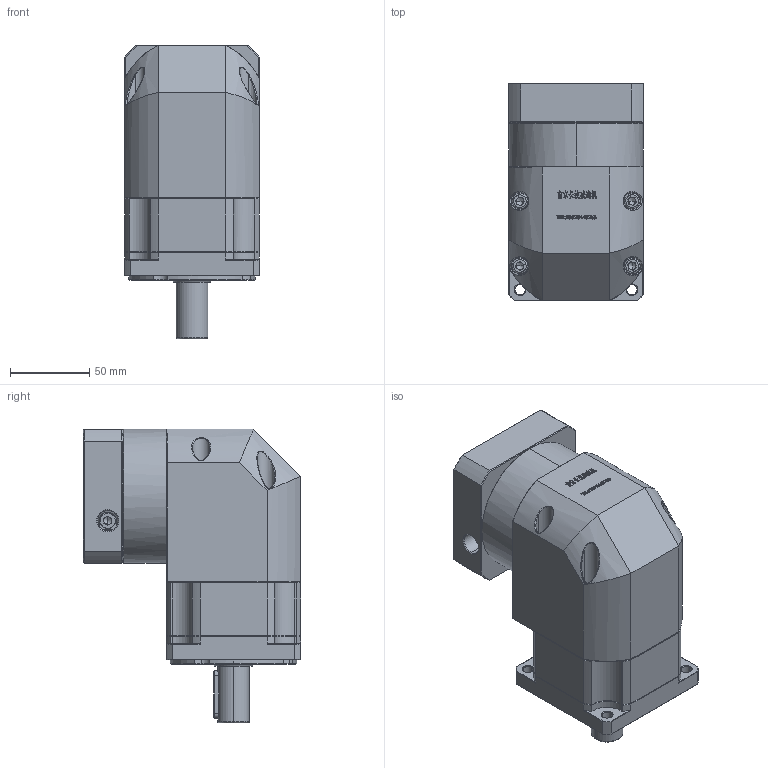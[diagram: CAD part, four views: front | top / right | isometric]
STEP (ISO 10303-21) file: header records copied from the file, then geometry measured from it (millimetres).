
FILE_DESCRIPTION (( 'STEP AP214' ), '1' );
FILE_NAME ('ZBR90-D20-L1-12.7-73-69.5X69.5-M6.step', '2022-05-07T15:12:42', ( '' ), ( 'Microsoft' ), 'SwSTEP 2.0', 'SolidWorks 2016', '' );
FILE_SCHEMA (( 'AUTOMOTIVE_DESIGN' ));
Length unit declared in the file: millimetre
Products named in the file (1): ZBR90-D20-L1-12.7-73-69.5X69.5-M6
Bounding box: 85 x 137.6 x 186 mm (x, y, z)
Volume: 1183936.4 mm3; surface area: 129845.8 mm2
Topology: 5 solids, 5 shells, 3003 faces, 7951 edges, 5082 vertices
Faces by surface type: plane 1577, bspline 603, cylinder 447, cone 350, torus 26
Entity records: 163204 total; most frequent: CARTESIAN_POINT 60635, ORIENTED_EDGE 15826, DIRECTION 12060, EDGE_CURVE 7913, VECTOR 5280, LINE 5280, VERTEX_POINT 5082, AXIS2_PLACEMENT_3D 3390
